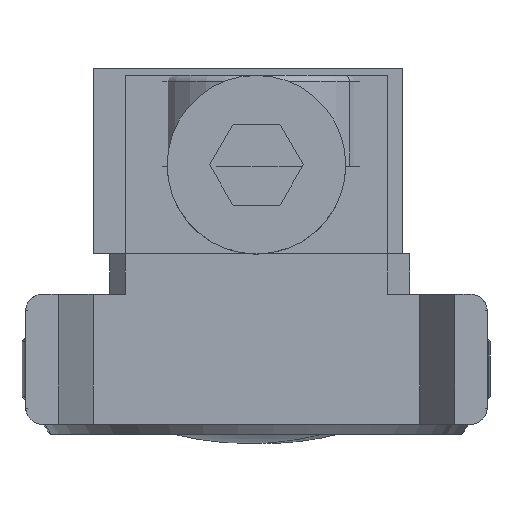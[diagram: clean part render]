
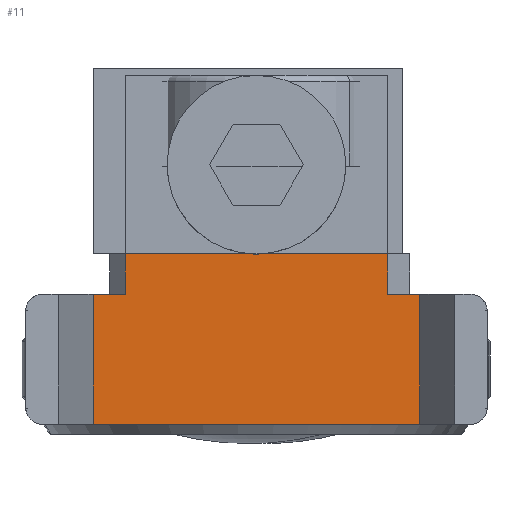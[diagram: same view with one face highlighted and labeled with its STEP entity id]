
A CAD part, left-side view. The second image highlights one B-rep face of the part: STEP entity #11.
In plain terms, the highlighted planar face has unit normal (-1, 0, 0).
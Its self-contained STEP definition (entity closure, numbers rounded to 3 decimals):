
#11 = ADVANCED_FACE ( 'NONE', ( #2523 ), #1184, .T. ) ;
#34 = ORIENTED_EDGE ( 'NONE', *, *, #1825, .T. ) ;
#45 = VECTOR ( 'NONE', #5636, 1000. ) ;
#195 = ORIENTED_EDGE ( 'NONE', *, *, #4904, .T. ) ;
#197 = CARTESIAN_POINT ( 'NONE',  ( 4., -4., -5.028 ) ) ;
#245 = DIRECTION ( 'NONE',  ( 0., 0., 1. ) ) ;
#251 = DIRECTION ( 'NONE',  ( 0., -1., 0. ) ) ;
#268 = AXIS2_PLACEMENT_3D ( 'NONE', #1689, #1143, #5030 ) ;
#371 = VECTOR ( 'NONE', #827, 1000. ) ;
#403 = VECTOR ( 'NONE', #251, 1000. ) ;
#561 = LINE ( 'NONE', #4172, #5951 ) ;
#630 = EDGE_CURVE ( 'NONE', #3078, #4892, #3743, .T. ) ;
#692 = VERTEX_POINT ( 'NONE', #3625 ) ;
#747 = CARTESIAN_POINT ( 'NONE',  ( 4., 1.25, -0.234 ) ) ;
#827 = DIRECTION ( 'NONE',  ( 0., -1., 0. ) ) ;
#919 = EDGE_CURVE ( 'NONE', #5332, #5649, #561, .T. ) ;
#1020 = VERTEX_POINT ( 'NONE', #5724 ) ;
#1073 = VERTEX_POINT ( 'NONE', #3860 ) ;
#1143 = DIRECTION ( 'NONE',  ( -1., 0., 0. ) ) ;
#1184 = PLANE ( 'NONE',  #1470 ) ;
#1213 = ORIENTED_EDGE ( 'NONE', *, *, #1592, .T. ) ;
#1305 = EDGE_LOOP ( 'NONE', ( #1213, #1749, #4758, #3957, #1698, #195, #2756, #34, #5404, #5554 ) ) ;
#1362 = DIRECTION ( 'NONE',  ( 0., 0., 1. ) ) ;
#1470 = AXIS2_PLACEMENT_3D ( 'NONE', #2611, #5029, #3535 ) ;
#1530 = LINE ( 'NONE', #2919, #1607 ) ;
#1592 = EDGE_CURVE ( 'NONE', #3056, #1073, #2590, .T. ) ;
#1607 = VECTOR ( 'NONE', #3907, 1000. ) ;
#1689 = CARTESIAN_POINT ( 'NONE',  ( 4., 3.99, 0. ) ) ;
#1698 = ORIENTED_EDGE ( 'NONE', *, *, #630, .T. ) ;
#1749 = ORIENTED_EDGE ( 'NONE', *, *, #2788, .F. ) ;
#1787 = CARTESIAN_POINT ( 'NONE',  ( 4., 1.25, -5.028 ) ) ;
#1825 = EDGE_CURVE ( 'NONE', #692, #5332, #3798, .T. ) ;
#1910 = VECTOR ( 'NONE', #245, 1000. ) ;
#2312 = VECTOR ( 'NONE', #5601, 1000. ) ;
#2392 = EDGE_CURVE ( 'NONE', #3078, #5804, #5407, .T. ) ;
#2435 = EDGE_CURVE ( 'NONE', #692, #3712, #3180, .T. ) ;
#2523 = FACE_OUTER_BOUND ( 'NONE', #1305, .T. ) ;
#2556 = CARTESIAN_POINT ( 'NONE',  ( 4., 0., -4.04 ) ) ;
#2590 = LINE ( 'NONE', #5680, #45 ) ;
#2608 = CARTESIAN_POINT ( 'NONE',  ( 4., 1.25, -5.028 ) ) ;
#2611 = CARTESIAN_POINT ( 'NONE',  ( 4., -4., -5.028 ) ) ;
#2675 = CARTESIAN_POINT ( 'NONE',  ( 4., 0., 0. ) ) ;
#2756 = ORIENTED_EDGE ( 'NONE', *, *, #2435, .F. ) ;
#2784 = CARTESIAN_POINT ( 'NONE',  ( 4., 1.25, -4.04 ) ) ;
#2786 = LINE ( 'NONE', #3264, #371 ) ;
#2788 = EDGE_CURVE ( 'NONE', #1020, #1073, #1530, .T. ) ;
#2919 = CARTESIAN_POINT ( 'NONE',  ( 4., 0., 4.04 ) ) ;
#3056 = VERTEX_POINT ( 'NONE', #5936 ) ;
#3078 = VERTEX_POINT ( 'NONE', #747 ) ;
#3180 = LINE ( 'NONE', #2675, #1910 ) ;
#3223 = CARTESIAN_POINT ( 'NONE',  ( 4., 0., -4.04 ) ) ;
#3239 = LINE ( 'NONE', #3223, #5617 ) ;
#3245 = DIRECTION ( 'NONE',  ( 0., -1., 0. ) ) ;
#3264 = CARTESIAN_POINT ( 'NONE',  ( 4., -4., 5.028 ) ) ;
#3535 = DIRECTION ( 'NONE',  ( 0., 0., 1. ) ) ;
#3625 = CARTESIAN_POINT ( 'NONE',  ( 4., 0., -5.028 ) ) ;
#3712 = VERTEX_POINT ( 'NONE', #2556 ) ;
#3743 = LINE ( 'NONE', #1787, #2312 ) ;
#3798 = LINE ( 'NONE', #197, #403 ) ;
#3842 = LINE ( 'NONE', #2608, #3905 ) ;
#3860 = CARTESIAN_POINT ( 'NONE',  ( 4., 0., 4.04 ) ) ;
#3905 = VECTOR ( 'NONE', #5942, 1000. ) ;
#3907 = DIRECTION ( 'NONE',  ( 0., -1., 0. ) ) ;
#3929 = CARTESIAN_POINT ( 'NONE',  ( 4., 1.25, 0.234 ) ) ;
#3957 = ORIENTED_EDGE ( 'NONE', *, *, #2392, .F. ) ;
#4172 = CARTESIAN_POINT ( 'NONE',  ( 4., -4., 0. ) ) ;
#4565 = CARTESIAN_POINT ( 'NONE',  ( 4., -4., -5.028 ) ) ;
#4752 = EDGE_CURVE ( 'NONE', #1020, #5804, #3842, .T. ) ;
#4758 = ORIENTED_EDGE ( 'NONE', *, *, #4752, .T. ) ;
#4892 = VERTEX_POINT ( 'NONE', #2784 ) ;
#4904 = EDGE_CURVE ( 'NONE', #4892, #3712, #3239, .T. ) ;
#4917 = EDGE_CURVE ( 'NONE', #3056, #5649, #2786, .T. ) ;
#5029 = DIRECTION ( 'NONE',  ( -1., 0., 0. ) ) ;
#5030 = DIRECTION ( 'NONE',  ( 0., 0., 1. ) ) ;
#5332 = VERTEX_POINT ( 'NONE', #4565 ) ;
#5404 = ORIENTED_EDGE ( 'NONE', *, *, #919, .T. ) ;
#5407 = CIRCLE ( 'NONE', #268, 2.75 ) ;
#5554 = ORIENTED_EDGE ( 'NONE', *, *, #4917, .F. ) ;
#5601 = DIRECTION ( 'NONE',  ( 0., 0., -1. ) ) ;
#5617 = VECTOR ( 'NONE', #3245, 1000. ) ;
#5636 = DIRECTION ( 'NONE',  ( 0., 0., -1. ) ) ;
#5649 = VERTEX_POINT ( 'NONE', #5740 ) ;
#5680 = CARTESIAN_POINT ( 'NONE',  ( 4., 0., -5.028 ) ) ;
#5724 = CARTESIAN_POINT ( 'NONE',  ( 4., 1.25, 4.04 ) ) ;
#5740 = CARTESIAN_POINT ( 'NONE',  ( 4., -4., 5.028 ) ) ;
#5804 = VERTEX_POINT ( 'NONE', #3929 ) ;
#5936 = CARTESIAN_POINT ( 'NONE',  ( 4., 0., 5.028 ) ) ;
#5942 = DIRECTION ( 'NONE',  ( 0., 0., -1. ) ) ;
#5951 = VECTOR ( 'NONE', #1362, 1000. ) ;
